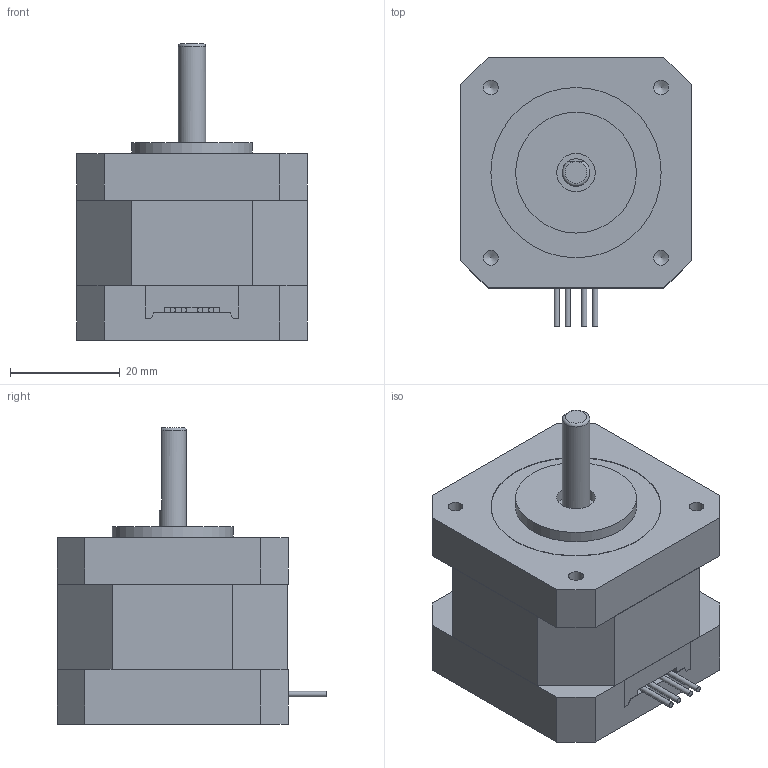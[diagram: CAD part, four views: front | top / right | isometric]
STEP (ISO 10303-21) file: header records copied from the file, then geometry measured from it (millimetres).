
FILE_DESCRIPTION(/* description */ (''),/* implementation_level */ '2;1');
FILE_NAME(/* name */ 'STP-43D1079-01.stp',/* time_stamp */ '2018-08-13T09:51:21+08:00',/* author */ (''),/* organization */ (''),/* preprocessor_version */ 'ST-DEVELOPER v11',/* originating_system */ 'SIEMENS UGS NX 6.0',/* authorisation */ '');
FILE_SCHEMA (('CONFIG_CONTROL_DESIGN'));
Length unit declared in the file: millimetre
Products named in the file (1): STP-43D1079-01
Bounding box: 42 x 49 x 54 mm (x, y, z)
Volume: 56580.8 mm3; surface area: 10093.1 mm2
Topology: 5 solids, 6 shells, 147 faces, 355 edges, 237 vertices
Faces by surface type: plane 117, cylinder 21, cone 8, torus 1
Full cylindrical faces by diameter (mm): 1.001 x1, 1.003 x1, 1.006 x1, 1.007 x1, 2.7 x4, 4.414 x4, 5 x3, 7 x3, 8.5 x1, 22 x1, 31 x1
Entity records: 4045 total; most frequent: CARTESIAN_POINT 691, DIRECTION 651, ORIENTED_EDGE 618, EDGE_CURVE 309, LINE 259, VECTOR 259, VERTEX_POINT 224, AXIS2_PLACEMENT_3D 196
